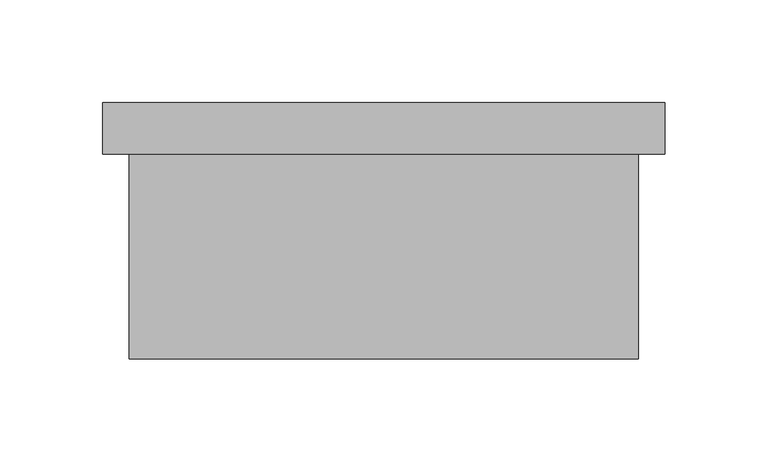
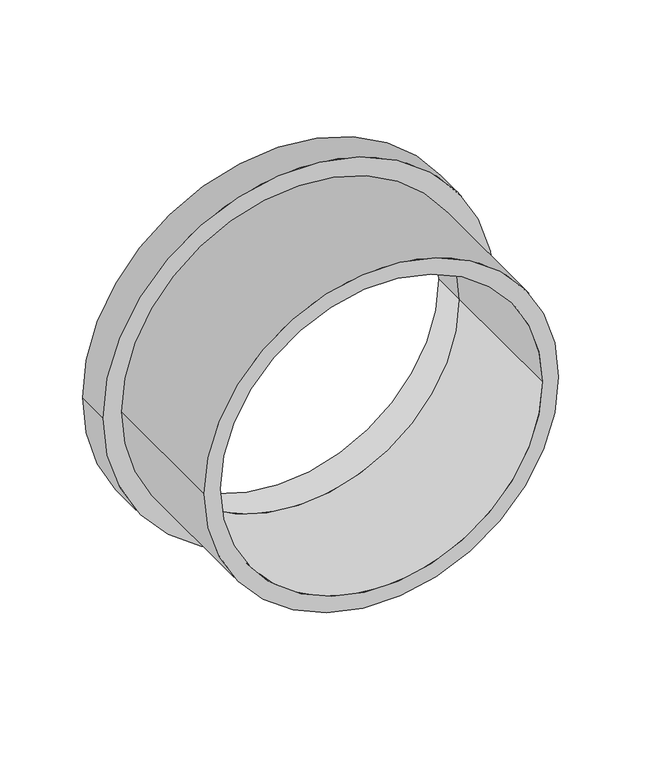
"""IFC4 building model written with IfcOpenShell, lengths in millimetres: pipe fitting geometry, 01051020 : Colarinho."""

import ifcopenshell
import ifcopenshell.guid

model = None  # the IFC model being written
_history = None  # IfcOwnerHistory: only IFC2X3 demands one
_inside = {}  # id of a spatial element -> (the spatial element, [elements in it])
_under = {}  # id of a project, library or spatial element -> (it, [spatial elements below it])
_declared = {}  # id of a project -> (the project, [libraries it declares])
_typed = {}  # id of a type object -> (the type object, [elements of that type])
_made_of = {}  # id of a material, layer set ... -> (it, [elements and type objects made of it])


def new_model(schema):
    """Start an empty IFC model of exactly this schema.

    Asked for "IFC4X3", IfcOpenShell would pick the latest addendum, in which some entities
    have other attributes; the version numbers below select the first issue.
    IFC2X3 requires an IfcOwnerHistory on every rooted entity: one is made here for all.
    """
    global model, _history
    if schema == "IFC4X3":
        model = ifcopenshell.file(schema_version=(4, 3, 0, 0))
    else:
        model = ifcopenshell.file(schema=schema)
    _inside.clear()
    _under.clear()
    _declared.clear()
    _typed.clear()
    _made_of.clear()
    _history = None
    if model.schema == "IFC2X3":
        org = make("IfcOrganization", Name="unknown")
        user = make(
            "IfcPersonAndOrganization",
            ThePerson=make("IfcPerson", FamilyName="unknown"),
            TheOrganization=org,
        )
        app = make(
            "IfcApplication",
            ApplicationDeveloper=org,
            Version="unknown",
            ApplicationFullName="unknown",
            ApplicationIdentifier="unknown",
        )
        _history = make(
            "IfcOwnerHistory",
            OwningUser=user,
            OwningApplication=app,
            ChangeAction="ADDED",
            CreationDate=0,
        )
    return model


def make(cls, **values):
    """One entity of the class cls with the attributes given. An attribute that is None is left unset."""
    return model.create_entity(
        cls, **{name: value for name, value in values.items() if value is not None}
    )


def rooted(cls, **values):
    """An entity with a GlobalId (a new one), such as an element, a storey or a relation."""
    return make(cls, GlobalId=ifcopenshell.guid.new(), OwnerHistory=_history, **values)


def si_unit(unit_type, name, prefix=None):
    """IfcSIUnit, for example si_unit("LENGTHUNIT", "METRE", prefix="MILLI")."""
    return make("IfcSIUnit", UnitType=unit_type, Prefix=prefix, Name=name)


def assignment(units):
    """IfcUnitAssignment: the units of a project."""
    return None if units is None else make("IfcUnitAssignment", Units=units)


def point(xyz):
    """IfcCartesianPoint."""
    return None if xyz is None else make("IfcCartesianPoint", Coordinates=xyz)


def direction(xyz):
    """IfcDirection."""
    return None if xyz is None else make("IfcDirection", DirectionRatios=xyz)


def frame(location, z_axis=None, x_axis=None):
    """IfcAxis2Placement3D, a coordinate frame: its origin and axes. An axis left out is left unset."""
    return make(
        "IfcAxis2Placement3D",
        Location=point(location),
        Axis=direction(z_axis),
        RefDirection=direction(x_axis),
    )


def frame_2d(location, x_axis=None):
    """IfcAxis2Placement2D, a coordinate frame in the plane: its origin and x axis."""
    return make(
        "IfcAxis2Placement2D", Location=point(location), RefDirection=direction(x_axis)
    )


def origin():
    """The frame at (0, 0, 0) with its axes left unset."""
    return frame((0.0, 0.0, 0.0))


def origin_2d():
    """The frame at (0, 0) in the plane with its x axis left unset."""
    return frame_2d((0.0, 0.0))


def place(relative_to, where):
    """IfcLocalPlacement: puts the frame where relative to a parent placement (None: the world)."""
    return make(
        "IfcLocalPlacement", PlacementRelTo=relative_to, RelativePlacement=where
    )


def context(
    kind, dimensions, precision=None, world=None, true_north=None, identifier=None
):
    """IfcGeometricRepresentationContext, for example the 3D "Model" context."""
    return make(
        "IfcGeometricRepresentationContext",
        ContextIdentifier=identifier,
        ContextType=kind,
        CoordinateSpaceDimension=dimensions,
        Precision=precision,
        WorldCoordinateSystem=world,
        TrueNorth=true_north,
    )


def project(units=None, contexts=None):
    """IfcProject with its units and contexts."""
    return rooted(
        "IfcProject",
        Name="project",
        RepresentationContexts=contexts,
        UnitsInContext=assignment(units),
    )


def spatial(cls, under=None, at=None, **own):
    """A site, building, storey or space (cls), placed at a placement, below another one or the project."""
    s = rooted(cls, ObjectPlacement=at, **own)
    if under is not None:
        _under.setdefault(under.id(), (under, []))[1].append(s)
    return s


def circle_curve(where, radius):
    """IfcCircle in the frame where."""
    return make("IfcCircle", Position=where, Radius=radius)


def trimmed(basis, trim1, trim2, sense, master):
    """IfcTrimmedCurve: the piece of a basis curve between two trims."""
    return make(
        "IfcTrimmedCurve",
        BasisCurve=basis,
        Trim1=trim1,
        Trim2=trim2,
        SenseAgreement=sense,
        MasterRepresentation=master,
    )


def segment(curve, same_sense, transition):
    """IfcCompositeCurveSegment."""
    return make(
        "IfcCompositeCurveSegment",
        Transition=transition,
        SameSense=same_sense,
        ParentCurve=curve,
    )


def composite_curve(segments, self_intersect=None):
    """IfcCompositeCurve: segments joined end to end."""
    return make("IfcCompositeCurve", Segments=segments, SelfIntersect=self_intersect)


def outline(outer, holes=None, kind="AREA"):
    """IfcArbitraryClosedProfileDef: a profile drawn as a closed curve; with holes, ...WithVoids."""
    if holes is None:
        return make("IfcArbitraryClosedProfileDef", ProfileType=kind, OuterCurve=outer)
    return make(
        "IfcArbitraryProfileDefWithVoids",
        ProfileType=kind,
        OuterCurve=outer,
        InnerCurves=holes,
    )


def extrude(swept, where, along, depth):
    """IfcExtrudedAreaSolid: the profile swept, set in the frame where, extruded along a direction by depth."""
    return make(
        "IfcExtrudedAreaSolid",
        SweptArea=swept,
        Position=where,
        ExtrudedDirection=direction(along),
        Depth=depth,
    )


def shape(context_of_items, identifier, shape_type, items):
    """IfcShapeRepresentation: the items that make up one representation, for example the "Body"."""
    return make(
        "IfcShapeRepresentation",
        ContextOfItems=context_of_items,
        RepresentationIdentifier=identifier,
        RepresentationType=shape_type,
        Items=items,
    )


def source(mapping_origin, context_of_items, identifier, shape_type, items):
    """IfcRepresentationMap: a shape defined once, which mapped items show again and again."""
    return make(
        "IfcRepresentationMap",
        MappingOrigin=mapping_origin,
        MappedRepresentation=shape(context_of_items, identifier, shape_type, items),
    )


def transform(
    local_origin,
    x_axis=None,
    y_axis=None,
    z_axis=None,
    scale=None,
    scale2=None,
    scale3=None,
    uniform=True,
):
    """IfcCartesianTransformationOperator3D, or its non-uniform kind. x_axis, y_axis, z_axis: its Axis1, 2, 3."""
    if uniform:
        return make(
            "IfcCartesianTransformationOperator3D",
            Axis1=direction(x_axis),
            Axis2=direction(y_axis),
            LocalOrigin=point(local_origin),
            Scale=scale,
            Axis3=direction(z_axis),
        )
    return make(
        "IfcCartesianTransformationOperator3DnonUniform",
        Axis1=direction(x_axis),
        Axis2=direction(y_axis),
        LocalOrigin=point(local_origin),
        Scale=scale,
        Axis3=direction(z_axis),
        Scale2=scale2,
        Scale3=scale3,
    )


def mapped(mapping_source, mapping_target):
    """IfcMappedItem: shows the shape of a source again, moved by a transform."""
    return make(
        "IfcMappedItem", MappingSource=mapping_source, MappingTarget=mapping_target
    )


def made_of(thing, what):
    """Note that an element or type object is made of a material, layer set ...; save() writes the relation."""
    if what is not None:
        _made_of.setdefault(what.id(), (what, []))[1].append(thing)
    return thing


def element(
    cls,
    number,
    at=None,
    inside=None,
    cuts=None,
    type_object=None,
    material=None,
    context=None,
    identifier="Body",
    shape_type=None,
    held_by="IfcProductDefinitionShape",
    body=None,
    shapes=None,
    **own,
):
    """One element of the class cls, such as IfcWall. Its Tag is "e" and its number.

    at: its placement. inside: the storey or other place that contains it. cuts: it is an
    opening in that element (IfcRelVoidsElement). A single representation is given by context,
    identifier, shape_type and body (its items); several are given by shapes. held_by: the class
    of the entity that holds the representations. save() writes the other relations.
    """
    e = rooted(cls, Tag="e%d" % number, ObjectPlacement=at, **own)
    if body is not None:
        shapes = [shape(context, identifier, shape_type, body)]
    if shapes is not None:
        e.Representation = make(held_by, Representations=shapes)
    if inside is not None:
        _inside.setdefault(inside.id(), (inside, []))[1].append(e)
    if cuts is not None:
        rooted(
            "IfcRelVoidsElement", RelatingBuildingElement=cuts, RelatedOpeningElement=e
        )
    if type_object is not None:
        _typed.setdefault(type_object.id(), (type_object, []))[1].append(e)
    return made_of(e, material)


def aggregate(whole, parts):
    """IfcRelAggregates: a whole, such as a stair, and the parts it consists of."""
    return rooted("IfcRelAggregates", RelatingObject=whole, RelatedObjects=parts)


def save(model, path):
    """Write the relations noted so far, then the file.

    IfcRelAggregates (storeys below a building ...), IfcRelContainedInSpatialStructure (elements
    in a storey), IfcRelDefinesByType, IfcRelAssociatesMaterial and IfcRelDeclares: one each for
    every whole, place, type object, material and project.
    """
    for whole, parts in _under.values():
        aggregate(whole, parts)
    for where, things in _inside.values():
        rooted(
            "IfcRelContainedInSpatialStructure",
            RelatedElements=things,
            RelatingStructure=where,
        )
    for kind, things in _typed.values():
        rooted("IfcRelDefinesByType", RelatedObjects=things, RelatingType=kind)
    for what, things in _made_of.values():
        rooted("IfcRelAssociatesMaterial", RelatedObjects=things, RelatingMaterial=what)
    for by, libraries in _declared.values():
        rooted("IfcRelDeclares", RelatingContext=by, RelatedDefinitions=libraries)
    model.write(path)


def pipe_fitting_16d6cf38(model_context):
    return source(origin(), model_context, "Body", "SweptSolid", [
        extrude(outline(composite_curve([segment(trimmed(circle_curve(origin_2d(), 124.0), [point((0.0, -124.0))], [point((0.0, 124.0))], False, "CARTESIAN"), True, "CONTINUOUS"), segment(trimmed(circle_curve(origin_2d(), 124.0), [point((0.0, 124.0))], [point((0.0, -124.0))], False, "CARTESIAN"), True, "CONTINUOUS")], self_intersect=False), holes=[composite_curve([segment(trimmed(circle_curve(origin_2d(), 112.5), [point((0.0, -112.5))], [point((0.0, 112.5))], True, "CARTESIAN"), True, "CONTINUOUS"), segment(trimmed(circle_curve(origin_2d(), 112.5), [point((0.0, 112.5))], [point((0.0, -112.5))], True, "CARTESIAN"), True, "CONTINUOUS")], self_intersect=False)]), frame((0.0, -100.0, 0.0), z_axis=(0.0, 1.0, 0.0), x_axis=(0.0, 0.0, 1.0)), (0.0, 0.0, 1.0), 100.0),
        extrude(outline(composite_curve([segment(trimmed(circle_curve(origin_2d(), 137.0), [point((0.0, -137.0))], [point((0.0, 137.0))], False, "CARTESIAN"), True, "CONTINUOUS"), segment(trimmed(circle_curve(origin_2d(), 137.0), [point((0.0, 137.0))], [point((0.0, -137.0))], False, "CARTESIAN"), True, "CONTINUOUS")], self_intersect=False), holes=[composite_curve([segment(trimmed(circle_curve(origin_2d(), 112.5), [point((0.0, -112.5))], [point((0.0, 112.5))], True, "CARTESIAN"), True, "CONTINUOUS"), segment(trimmed(circle_curve(origin_2d(), 112.5), [point((0.0, 112.5))], [point((0.0, -112.5))], True, "CARTESIAN"), True, "CONTINUOUS")], self_intersect=False)]), frame((0.0, 0.0, 0.0), z_axis=(0.0, 1.0, 0.0), x_axis=(0.0, 0.0, 1.0)), (0.0, 0.0, 1.0), 25.0),
    ])


if __name__ == "__main__":
    model = new_model("IFC4")
    model_context = context("Model", 3, world=origin())
    ifc_project = project(units=[si_unit("LENGTHUNIT", "METRE", prefix="MILLI")], contexts=[model_context])
    site = spatial("IfcSite", under=ifc_project)
    building = spatial("IfcBuilding", under=site)
    placement = place(None, origin())
    pipe_fitting_shape = pipe_fitting_16d6cf38(model_context)
    element("IfcPipeFitting", 1, ObjectType="01051020 : Colarinho", at=placement, inside=building, context=model_context, shape_type="MappedRepresentation", body=[
        mapped(pipe_fitting_shape, transform((0.0, 0.0, 0.0), x_axis=(1.0, 0.0, 0.0), y_axis=(0.0, 1.0, 0.0), z_axis=(0.0, 0.0, 1.0))),
    ])
    save(model, "model.ifc")
